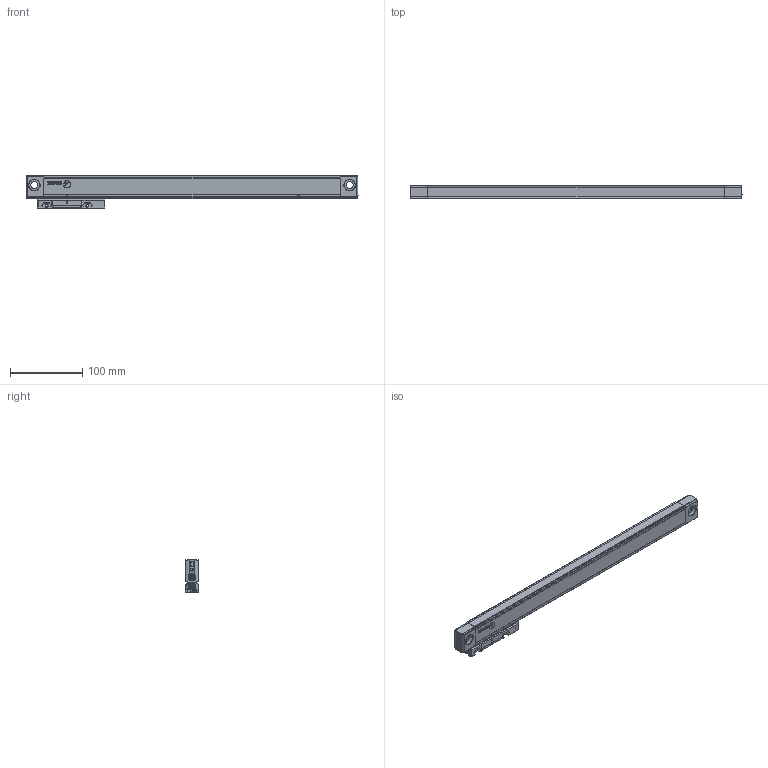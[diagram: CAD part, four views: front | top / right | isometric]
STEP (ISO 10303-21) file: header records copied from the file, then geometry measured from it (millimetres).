
FILE_DESCRIPTION(('Creo Elements/Direct Modeling STEP Export'),'2;1');
FILE_NAME('S3-320-T_V01.stp','2025-06-03T13:53:12',(''),(''),'Creo Elements/Direct Modeling STEP processor for AP214 (Solid Model)','Creo Elements/Direct Modeling 20.4A 18-Oct-2021 (C) Parametric Technology GmbH','');
FILE_SCHEMA(('AUTOMOTIVE_DESIGN { 1 0 10303 214 1 1 1 1 }'));
Length unit declared in the file: millimetre
Products named in the file (4): CABEZA-T; REGLA; S3-320-T_V01; S3-320-T_V01.stp
Assembly tree (3 placements, depth 3):
  S3-320-T_V01.stp
    S3-320-T_V01
      REGLA
      CABEZA-T
Bounding box: 458 x 18.3 x 46.2 mm (x, y, z)
Volume: 257170.5 mm3; surface area: 72798.4 mm2
Topology: 2 solids, 15 shells, 2148 faces, 6580 edges, 4543 vertices
Faces by surface type: plane 1148, cylinder 581, cone 230, bspline 135, torus 47, sphere 6, extrusion 1
Entity records: 89346 total; most frequent: CARTESIAN_POINT 31539, ORIENTED_EDGE 13086, DIRECTION 10564, EDGE_CURVE 6543, VERTEX_POINT 4543, VECTOR 4392, LINE 4391, AXIS2_PLACEMENT_3D 3086
